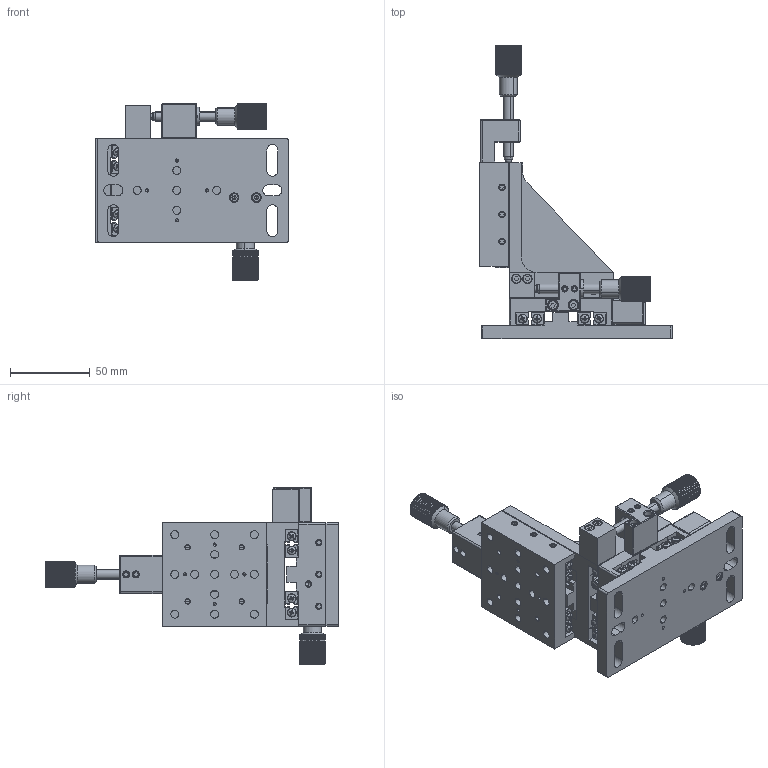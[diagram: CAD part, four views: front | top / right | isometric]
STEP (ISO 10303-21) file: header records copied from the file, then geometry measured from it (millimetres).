
FILE_DESCRIPTION (( 'STEP AP203' ), '1' );
FILE_NAME ('TSS65XYZ-1A.STEP', '2018-07-13T07:59:28', ( '' ), ( '' ), 'SwSTEP 2.0', 'SolidWorks 2016', '' );
FILE_SCHEMA (( 'CONFIG_CONTROL_DESIGN' ));
Length unit declared in the file: millimetre
Products named in the file (22): M10X1P-11L銅座; socket set screw flat point_am_B18.3.6M - M4 x 0.7 x 4 Hex Socket Flat Pt. SS --N; TSS65-滑軌; M6X32L; TSS65-Z軸分厘卡座; M3x0.5P無沉頭; TSS65XYZ-1A; ψ6X5.9L; pan cross head_am_B18.6.7M - M3 x 0.5 x 4 Type I Cross Recessed PHMS --4N; TSS65XY中片; socket head cap screw_am_B18.3.1M - 3 x 0.5 x 8 Hex SHCS -- 8NHX; TSS65頂點座; TSS65XZ-L塊; TS--側推分厘卡座; ψ8X1L; TS65XZ底板; 本體; M3x0.5Px20L; TS65-Z軸面板; socket set screw flat point_am_B18.3.6M - M3 x 0.5 x 3 Hex Socket Flat Pt. SS --N; socket head cap screw_am_B18.3.1M - 3 x 0.5 x 12 Hex SHCS -- 12NHX; TSS65XZ分厘卡座
Assembly tree (104 placements, depth 2):
  TSS65XYZ-1A
    TS65XZ底板
    TS65-Z軸面板
    TSS65XZ分厘卡座
    TSS65-滑軌  x12
    M3x0.5P無沉頭  x2
    pan cross head_am_B18.6.7M - M3 x 0.5 x 4 Type I Cross Recessed PHMS --4N  x24
    socket head cap screw_am_B18.3.1M - 3 x 0.5 x 8 Hex SHCS -- 8NHX  x16
    TSS65XZ-L塊
    ψ8X1L  x2
    M3x0.5Px20L  x8
    socket head cap screw_am_B18.3.1M - 3 x 0.5 x 12 Hex SHCS -- 12NHX  x2
    socket set screw flat point_am_B18.3.6M - M4 x 0.7 x 4 Hex Socket Flat Pt. SS --N  x20
    TSS65-Z軸分厘卡座
    ψ6X5.9L
    TSS65XY中片
    TSS65頂點座
    TS--側推分厘卡座
    本體
    socket set screw flat point_am_B18.3.6M - M3 x 0.5 x 3 Hex Socket Flat Pt. SS --N  x2
    M10X1P-11L銅座  x3
    M6X32L  x3
Bounding box: 121 x 184.4 x 111 mm (x, y, z)
Volume: 355949.7 mm3; surface area: 148270.4 mm2
Topology: 104 solids, 104 shells, 3626 faces, 8791 edges, 5385 vertices
Faces by surface type: plane 1907, cylinder 1057, cone 496, torus 98, sphere 68
Entity records: 41493 total; most frequent: CARTESIAN_POINT 7768, DIRECTION 6384, ORIENTED_EDGE 5786, EDGE_CURVE 2893, AXIS2_PLACEMENT_3D 2475, VERTEX_POINT 1851, EDGE_LOOP 1472, LINE 1434
